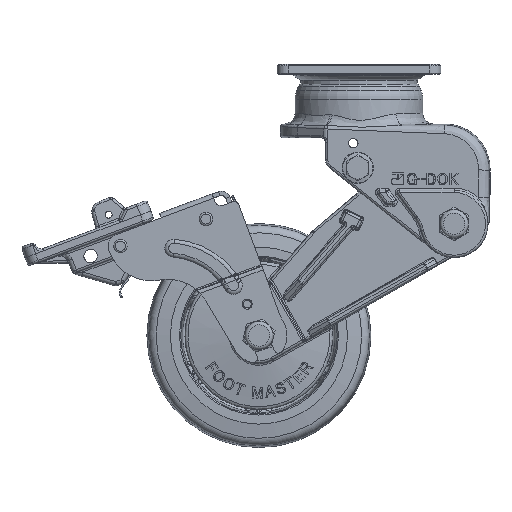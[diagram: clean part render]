
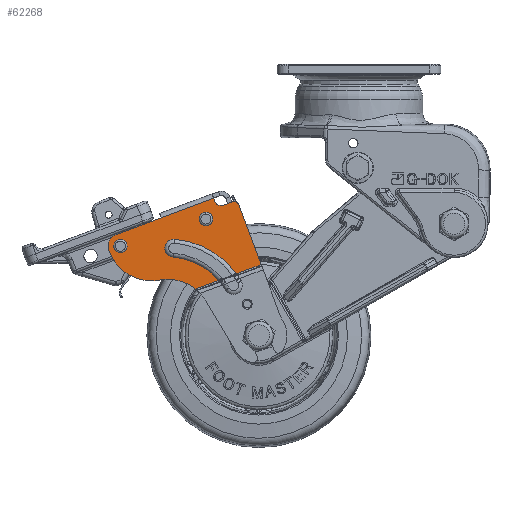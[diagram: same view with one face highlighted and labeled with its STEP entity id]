
A CAD part, front view. The second image highlights one B-rep face of the part: STEP entity #62268.
In plain terms, the highlighted planar face has unit normal (0, -1, 0).
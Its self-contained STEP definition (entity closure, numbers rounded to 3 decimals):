
#8212=FACE_BOUND('',#20888,.T.);
#8213=FACE_BOUND('',#20889,.T.);
#8905=LINE('',#96055,#12554);
#8906=LINE('',#96057,#12555);
#8907=LINE('',#96061,#12556);
#8908=LINE('',#96065,#12557);
#8909=LINE('',#96067,#12558);
#8910=LINE('',#96069,#12559);
#8911=LINE('',#96073,#12560);
#8912=LINE('',#96079,#12561);
#12554=VECTOR('',#74466,10.);
#12555=VECTOR('',#74467,8.587);
#12556=VECTOR('',#74470,4.474);
#12557=VECTOR('',#74473,3.5);
#12558=VECTOR('',#74474,10.);
#12559=VECTOR('',#74475,21.526);
#12560=VECTOR('',#74478,10.);
#12561=VECTOR('',#74483,10.);
#17119=FACE_OUTER_BOUND('',#20887,.T.);
#20887=EDGE_LOOP('',(#44706,#44707,#44708,#44709,#44710,#44711,#44712,#44713,
#44714,#44715,#44716,#44717,#44718,#44719,#44720,#44721,#44722));
#20888=EDGE_LOOP('',(#44723));
#20889=EDGE_LOOP('',(#44724));
#24694=CIRCLE('',#66584,2.25);
#24705=CIRCLE('',#66599,38.);
#24706=CIRCLE('',#66600,38.);
#24707=CIRCLE('',#66601,2.);
#24708=CIRCLE('',#66602,3.);
#24709=CIRCLE('',#66603,5.5);
#24710=CIRCLE('',#66604,20.);
#24711=CIRCLE('',#66605,20.);
#24712=CIRCLE('',#66606,30.);
#24713=CIRCLE('',#66607,4.);
#24714=CIRCLE('',#66608,2.25);
#27894=VERTEX_POINT('',#96006);
#27913=VERTEX_POINT('',#96049);
#27914=VERTEX_POINT('',#96050);
#27915=VERTEX_POINT('',#96052);
#27916=VERTEX_POINT('',#96054);
#27917=VERTEX_POINT('',#96056);
#27918=VERTEX_POINT('',#96058);
#27919=VERTEX_POINT('',#96060);
#27920=VERTEX_POINT('',#96062);
#27921=VERTEX_POINT('',#96064);
#27922=VERTEX_POINT('',#96066);
#27923=VERTEX_POINT('',#96068);
#27924=VERTEX_POINT('',#96070);
#27925=VERTEX_POINT('',#96072);
#27926=VERTEX_POINT('',#96074);
#27927=VERTEX_POINT('',#96076);
#27928=VERTEX_POINT('',#96078);
#27929=VERTEX_POINT('',#96080);
#27930=VERTEX_POINT('',#96083);
#34113=EDGE_CURVE('',#27894,#27894,#24694,.T.);
#34132=EDGE_CURVE('',#27913,#27914,#24705,.T.);
#34133=EDGE_CURVE('',#27914,#27915,#24706,.T.);
#34134=EDGE_CURVE('',#27915,#27916,#8905,.T.);
#34135=EDGE_CURVE('',#27917,#27916,#8906,.T.);
#34136=EDGE_CURVE('',#27918,#27917,#24707,.T.);
#34137=EDGE_CURVE('',#27919,#27918,#8907,.T.);
#34138=EDGE_CURVE('',#27920,#27919,#24708,.T.);
#34139=EDGE_CURVE('',#27921,#27920,#8908,.T.);
#34140=EDGE_CURVE('',#27922,#27921,#8909,.T.);
#34141=EDGE_CURVE('',#27923,#27922,#8910,.T.);
#34142=EDGE_CURVE('',#27924,#27923,#24709,.T.);
#34143=EDGE_CURVE('',#27925,#27924,#8911,.T.);
#34144=EDGE_CURVE('',#27926,#27925,#24710,.T.);
#34145=EDGE_CURVE('',#27926,#27927,#24711,.T.);
#34146=EDGE_CURVE('',#27927,#27928,#8912,.T.);
#34147=EDGE_CURVE('',#27928,#27929,#24712,.T.);
#34148=EDGE_CURVE('',#27929,#27913,#24713,.T.);
#34149=EDGE_CURVE('',#27930,#27930,#24714,.T.);
#44706=ORIENTED_EDGE('',*,*,#34132,.T.);
#44707=ORIENTED_EDGE('',*,*,#34133,.T.);
#44708=ORIENTED_EDGE('',*,*,#34134,.T.);
#44709=ORIENTED_EDGE('',*,*,#34135,.F.);
#44710=ORIENTED_EDGE('',*,*,#34136,.F.);
#44711=ORIENTED_EDGE('',*,*,#34137,.F.);
#44712=ORIENTED_EDGE('',*,*,#34138,.F.);
#44713=ORIENTED_EDGE('',*,*,#34139,.F.);
#44714=ORIENTED_EDGE('',*,*,#34140,.F.);
#44715=ORIENTED_EDGE('',*,*,#34141,.F.);
#44716=ORIENTED_EDGE('',*,*,#34142,.F.);
#44717=ORIENTED_EDGE('',*,*,#34143,.F.);
#44718=ORIENTED_EDGE('',*,*,#34144,.F.);
#44719=ORIENTED_EDGE('',*,*,#34145,.T.);
#44720=ORIENTED_EDGE('',*,*,#34146,.T.);
#44721=ORIENTED_EDGE('',*,*,#34147,.T.);
#44722=ORIENTED_EDGE('',*,*,#34148,.T.);
#44723=ORIENTED_EDGE('',*,*,#34149,.F.);
#44724=ORIENTED_EDGE('',*,*,#34113,.F.);
#60627=PLANE('',#66598);
#62268=ADVANCED_FACE('',(#17119,#8212,#8213),#60627,.F.);
#66584=AXIS2_PLACEMENT_3D('',#96008,#74424,#74425);
#66598=AXIS2_PLACEMENT_3D('',#96048,#74460,#74461);
#66599=AXIS2_PLACEMENT_3D('',#96051,#74462,#74463);
#66600=AXIS2_PLACEMENT_3D('',#96053,#74464,#74465);
#66601=AXIS2_PLACEMENT_3D('',#96059,#74468,#74469);
#66602=AXIS2_PLACEMENT_3D('',#96063,#74471,#74472);
#66603=AXIS2_PLACEMENT_3D('',#96071,#74476,#74477);
#66604=AXIS2_PLACEMENT_3D('',#96075,#74479,#74480);
#66605=AXIS2_PLACEMENT_3D('',#96077,#74481,#74482);
#66606=AXIS2_PLACEMENT_3D('',#96081,#74484,#74485);
#66607=AXIS2_PLACEMENT_3D('',#96082,#74486,#74487);
#66608=AXIS2_PLACEMENT_3D('',#96084,#74488,#74489);
#74424=DIRECTION('center_axis',(0.,-1.,0.));
#74425=DIRECTION('ref_axis',(0.,0.,-1.));
#74460=DIRECTION('center_axis',(0.,1.,0.));
#74461=DIRECTION('ref_axis',(-0.937,0.,-0.349));
#74462=DIRECTION('center_axis',(0.,1.,0.));
#74463=DIRECTION('ref_axis',(0.862,0.,0.507));
#74464=DIRECTION('center_axis',(0.,1.,0.));
#74465=DIRECTION('ref_axis',(0.862,0.,0.507));
#74466=DIRECTION('',(0.937,0.,0.349));
#74467=DIRECTION('',(0.349,0.,-0.937));
#74468=DIRECTION('center_axis',(0.,1.,0.));
#74469=DIRECTION('ref_axis',(0.937,0.,0.349));
#74470=DIRECTION('',(0.937,0.,0.349));
#74471=DIRECTION('center_axis',(0.,-1.,0.));
#74472=DIRECTION('ref_axis',(0.937,0.,0.349));
#74473=DIRECTION('',(0.349,0.,-0.937));
#74474=DIRECTION('',(0.937,0.,0.349));
#74475=DIRECTION('',(0.937,0.,0.349));
#74476=DIRECTION('center_axis',(0.,1.,0.));
#74477=DIRECTION('ref_axis',(0.937,0.,0.349));
#74478=DIRECTION('',(-0.349,0.,0.937));
#74479=DIRECTION('center_axis',(0.,1.,0.));
#74480=DIRECTION('ref_axis',(0.937,0.,0.349));
#74481=DIRECTION('center_axis',(0.,1.,0.));
#74482=DIRECTION('ref_axis',(0.862,0.,0.507));
#74483=DIRECTION('',(0.937,0.,0.349));
#74484=DIRECTION('center_axis',(0.,-1.,0.));
#74485=DIRECTION('ref_axis',(-0.862,0.,-0.507));
#74486=DIRECTION('center_axis',(0.,1.,0.));
#74487=DIRECTION('ref_axis',(0.079,0.,0.997));
#74488=DIRECTION('center_axis',(0.,-1.,0.));
#74489=DIRECTION('ref_axis',(0.,0.,-1.));
#96006=CARTESIAN_POINT('',(-105.665,-26.,-74.554));
#96008=CARTESIAN_POINT('Origin',(-106.451,-26.,-72.446));
#96048=CARTESIAN_POINT('Origin',(-84.12,-26.,-30.754));
#96049=CARTESIAN_POINT('',(-82.295,-26.,-69.371));
#96050=CARTESIAN_POINT('',(-54.954,-26.,-84.388));
#96051=CARTESIAN_POINT('Origin',(-85.306,-26.,-107.251));
#96052=CARTESIAN_POINT('',(-54.648,-26.,-84.8));
#96053=CARTESIAN_POINT('Origin',(-85.306,-26.,-107.251));
#96054=CARTESIAN_POINT('',(-43.611,-26.,-80.683));
#96055=CARTESIAN_POINT('',(-43.611,-26.,-80.683));
#96056=CARTESIAN_POINT('',(-53.633,-26.,-53.813));
#96057=CARTESIAN_POINT('',(-53.633,-26.,-53.813));
#96058=CARTESIAN_POINT('',(-56.206,-26.,-52.638));
#96059=CARTESIAN_POINT('Origin',(-55.507,-26.,-54.512));
#96060=CARTESIAN_POINT('',(-60.397,-26.,-54.201));
#96061=CARTESIAN_POINT('',(-60.397,-26.,-54.201));
#96062=CARTESIAN_POINT('',(-64.257,-26.,-52.439));
#96063=CARTESIAN_POINT('Origin',(-61.446,-26.,-51.39));
#96064=CARTESIAN_POINT('',(-64.781,-26.,-51.033));
#96065=CARTESIAN_POINT('',(-65.48,-26.,-49.159));
#96066=CARTESIAN_POINT('',(-88.204,-26.,-59.77));
#96067=CARTESIAN_POINT('',(-85.648,-26.,-58.816));
#96068=CARTESIAN_POINT('',(-108.373,-26.,-67.293));
#96069=CARTESIAN_POINT('',(-108.373,-26.,-67.293));
#96070=CARTESIAN_POINT('',(-111.605,-26.,-74.368));
#96071=CARTESIAN_POINT('Origin',(-106.451,-26.,-72.446));
#96072=CARTESIAN_POINT('',(-111.398,-26.,-74.922));
#96073=CARTESIAN_POINT('',(-108.11,-26.,-83.738));
#96074=CARTESIAN_POINT('',(-88.983,-26.,-87.592));
#96075=CARTESIAN_POINT('Origin',(-92.659,-26.,-67.933));
#96076=CARTESIAN_POINT('',(-72.863,-26.,-91.594));
#96077=CARTESIAN_POINT('Origin',(-85.306,-26.,-107.251));
#96078=CARTESIAN_POINT('',(-62.521,-26.,-87.736));
#96079=CARTESIAN_POINT('',(-43.611,-26.,-80.683));
#96080=CARTESIAN_POINT('',(-82.929,-26.,-77.345));
#96081=CARTESIAN_POINT('Origin',(-85.306,-26.,-107.251));
#96082=CARTESIAN_POINT('Origin',(-82.612,-26.,-73.358));
#96083=CARTESIAN_POINT('',(-67.484,-26.,-62.462));
#96084=CARTESIAN_POINT('Origin',(-68.27,-26.,-60.353));
